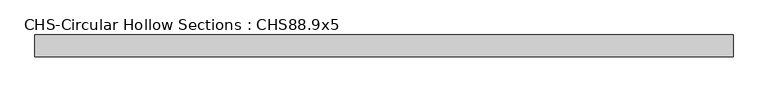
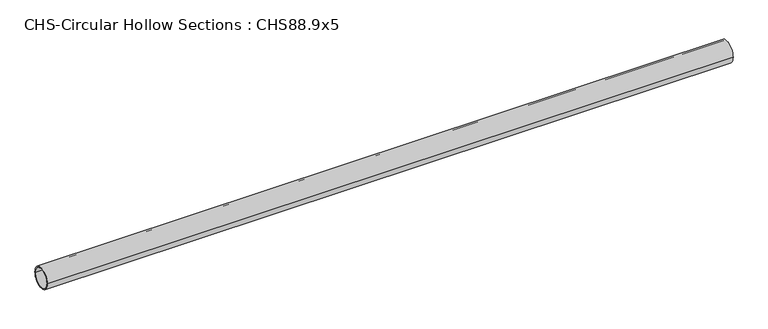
"""IFC4 building model written with IfcOpenShell, lengths in millimetres: beam geometry, CHS-Circular Hollow Sections : CHS88.9x5."""

from ifc_helpers import new_model, si_unit, point, frame, origin, origin_2d, place, context, project, spatial, circle_curve, trimmed, segment, composite_curve, outline, extrude, source, transform, mapped, element, save


def chs_circular_hollow_sections_chs88_9x5_759ee696(model_context):
    return source(origin(), model_context, "Body", "SweptSolid", [
        extrude(outline(composite_curve([segment(trimmed(circle_curve(origin_2d(), 44.45), [point((-44.45, 0.0))], [point((44.45, 0.0))], False, "CARTESIAN"), True, "CONTINUOUS"), segment(trimmed(circle_curve(origin_2d(), 44.45), [point((44.45, 0.0))], [point((-44.45, 0.0))], False, "CARTESIAN"), True, "CONTINUOUS")], self_intersect=False), holes=[composite_curve([segment(trimmed(circle_curve(origin_2d(), 39.45), [point((39.45, 0.0))], [point((-39.45, 0.0))], True, "CARTESIAN"), True, "CONTINUOUS"), segment(trimmed(circle_curve(origin_2d(), 39.45), [point((-39.45, 0.0))], [point((39.45, 0.0))], True, "CARTESIAN"), True, "CONTINUOUS")], self_intersect=False)]), frame((-1542.0, 0.0, 0.0), z_axis=(1.0, 0.0, 0.0), x_axis=(0.0, 1.0, 0.0)), (0.0, 0.0, 1.0), 2848.0),
    ])


if __name__ == "__main__":
    model = new_model("IFC4")
    model_context = context("Model", 3, world=origin())
    ifc_project = project(units=[si_unit("LENGTHUNIT", "METRE", prefix="MILLI")], contexts=[model_context])
    site = spatial("IfcSite", under=ifc_project)
    building = spatial("IfcBuilding", under=site)
    placement = place(None, origin())
    chs_circular_hollow_sections_chs88_9x5_shape = chs_circular_hollow_sections_chs88_9x5_759ee696(model_context)
    element("IfcBeam", 1, ObjectType="CHS-Circular Hollow Sections : CHS88.9x5", at=placement, inside=building, context=model_context, shape_type="MappedRepresentation", body=[
        mapped(chs_circular_hollow_sections_chs88_9x5_shape, transform((0.0, 0.0, 0.0), x_axis=(1.0, 0.0, 0.0), y_axis=(0.0, 1.0, 0.0), z_axis=(0.0, 0.0, 1.0))),
    ])
    save(model, "model.ifc")
